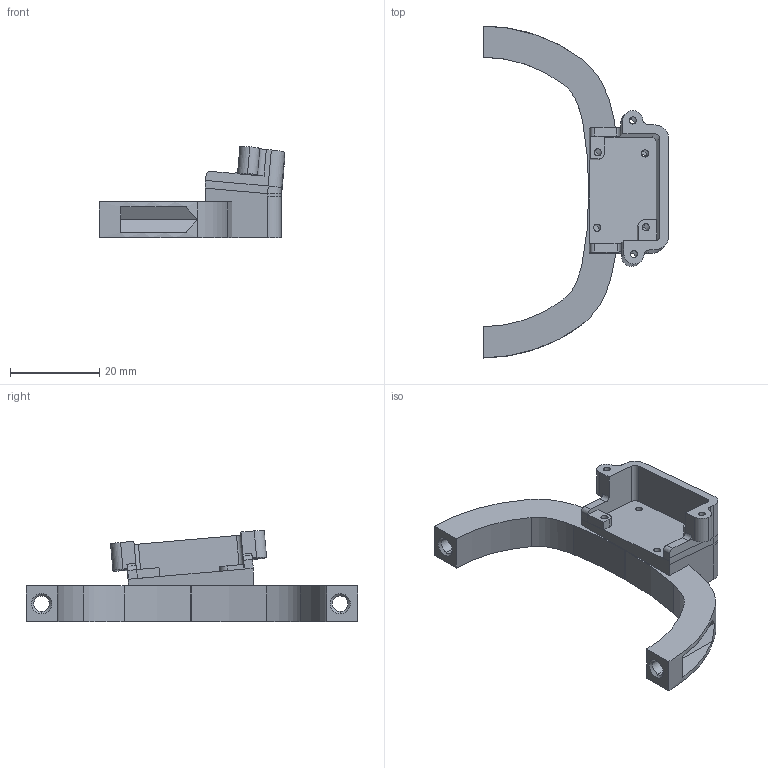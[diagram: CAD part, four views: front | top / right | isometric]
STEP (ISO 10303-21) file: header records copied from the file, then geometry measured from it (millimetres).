
FILE_DESCRIPTION (( 'STEP AP203' ), '1' );
FILE_NAME ('G1手腕相机支架-下装-右.STEP', '2025-08-21T06:33:52', ( '' ), ( '' ), 'SwSTEP 2.0', 'SolidWorks 2023', '' );
FILE_SCHEMA (( 'CONFIG_CONTROL_DESIGN' ));
Length unit declared in the file: millimetre
Products named in the file (1): G1手腕相机支架-下装-右
Bounding box: 41.53 x 74.49 x 20.42 mm (x, y, z)
Volume: 9067.3 mm3; surface area: 5620.4 mm2
Topology: 1 solids, 1 shells, 138 faces, 373 edges, 243 vertices
Faces by surface type: plane 69, cylinder 48, bspline 17, cone 4
Entity records: 5174 total; most frequent: CARTESIAN_POINT 1684, ORIENTED_EDGE 746, DIRECTION 666, EDGE_CURVE 373, VERTEX_POINT 243, AXIS2_PLACEMENT_3D 224, LINE 218, VECTOR 218
